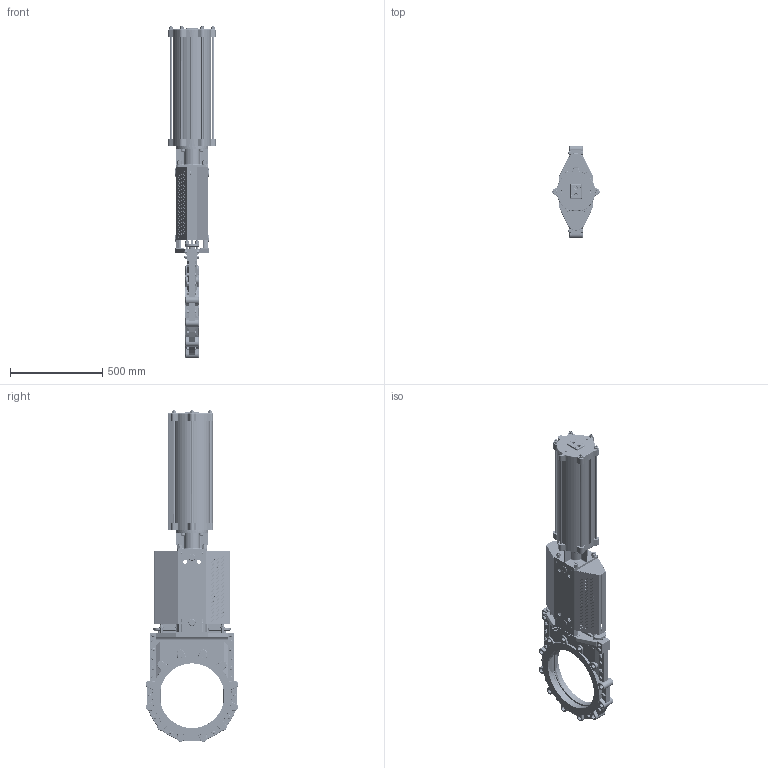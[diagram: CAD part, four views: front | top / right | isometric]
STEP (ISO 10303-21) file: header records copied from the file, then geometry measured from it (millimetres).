
FILE_DESCRIPTION(/* description */ (''),/* implementation_level */ '2;1');
FILE_NAME(/* name */ 'F:\Emir\3D-block special\WB\WB14E_DN350_ASME-B16.5_FRSC200-450.stp',/* time_stamp */ '2018-03-09T14:28:02+01:00',/* author */ ('emimus'),/* organization */ (''),/* preprocessor_version */ 'ST-DEVELOPER v17',/* originating_system */ 'Autodesk Inventor 2018',/* authorisation */ '');
FILE_SCHEMA (('CONFIG_CONTROL_DESIGN'));
Products named in the file (1): WB14E_DN350_ASME-B16.5_FRSC200-450
Bounding box: 256 x 500.75 x 1795.87 mm (x, y, z)
Volume: 20357442.1 mm3; surface area: 4364815 mm2
Topology: 1 solids, 1 shells, 5359 faces, 13898 edges, 8791 vertices
Faces by surface type: plane 2261, cylinder 1289, bspline 817, cone 445, torus 367, sphere 180
Full cylindrical faces by diameter (mm): 4 x2, 4.2 x16, 4.3 x8, 4.5 x12, 4.917 x13, 7 x7, 7.5 x4, 8.376 x4, 9.5 x2, 10 x9, 10.106 x2, 11 x6, 12 x46, 13 x22, 13.835 x4, 16 x8, 16.63 x19, 17 x4, 18 x3, 18.631 x2, 21.971 x24, 22 x8, 24 x63, 25 x4, 26 x38, 28 x4, 30 x4, 33 x1, 33.835 x1, 36 x2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
Entity records: 179057 total; most frequent: CARTESIAN_POINT 53742, ORIENTED_EDGE 27428, DIRECTION 24235, EDGE_CURVE 13714, AXIS2_PLACEMENT_3D 9003, VERTEX_POINT 8791, LINE 6229, VECTOR 6229
